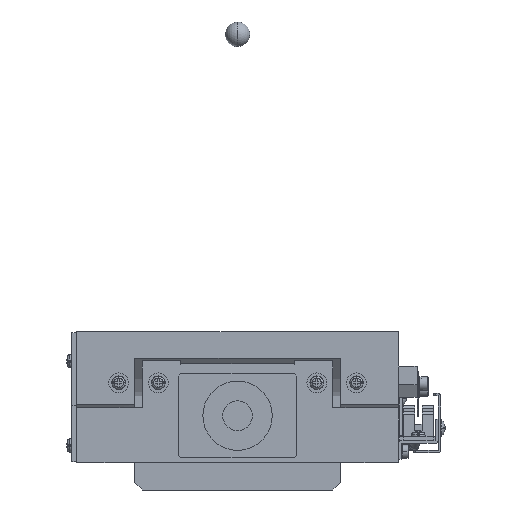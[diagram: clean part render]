
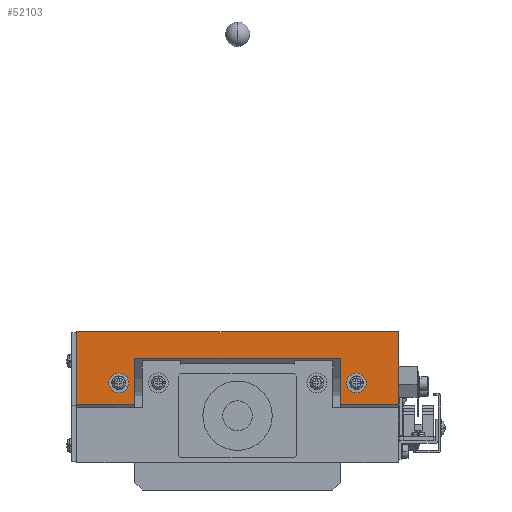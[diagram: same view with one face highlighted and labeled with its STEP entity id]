
A CAD part, left-side view. The second image highlights one B-rep face of the part: STEP entity #52103.
In plain terms, the highlighted planar face has unit normal (-1, 0, 0).
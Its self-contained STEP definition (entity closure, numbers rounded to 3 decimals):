
#1332 = ORIENTED_EDGE ( 'NONE', *, *, #17298, .T. ) ;
#1688 = VERTEX_POINT ( 'NONE', #73977 ) ;
#3361 = ORIENTED_EDGE ( 'NONE', *, *, #24374, .F. ) ;
#3859 = DIRECTION ( 'NONE',  ( 0., 1., 0. ) ) ;
#5965 = CARTESIAN_POINT ( 'NONE',  ( -393.021, -429.568, -234.382 ) ) ;
#7671 = DIRECTION ( 'NONE',  ( -1., 0., 0. ) ) ;
#7735 = DIRECTION ( 'NONE',  ( -1., 0., 0. ) ) ;
#7828 = AXIS2_PLACEMENT_3D ( 'NONE', #42442, #7735, #29941 ) ;
#8437 = ORIENTED_EDGE ( 'NONE', *, *, #21651, .F. ) ;
#9147 = LINE ( 'NONE', #29331, #23346 ) ;
#10221 = CARTESIAN_POINT ( 'NONE',  ( -393.021, -299.568, -204.903 ) ) ;
#11016 = VERTEX_POINT ( 'NONE', #66754 ) ;
#14199 = DIRECTION ( 'NONE',  ( 0., 1., 0. ) ) ;
#15119 = LINE ( 'NONE', #39528, #90064 ) ;
#16290 = EDGE_CURVE ( 'NONE', #83393, #39455, #77763, .T. ) ;
#16624 = CARTESIAN_POINT ( 'NONE',  ( -393.021, -412.568, -225.603 ) ) ;
#17298 = EDGE_CURVE ( 'NONE', #38613, #63239, #80828, .T. ) ;
#18193 = EDGE_LOOP ( 'NONE', ( #61351, #65046, #30654, #1332, #48313, #21122, #40449, #66531 ) ) ;
#18841 = AXIS2_PLACEMENT_3D ( 'NONE', #16624, #65224, #77622 ) ;
#19043 = CARTESIAN_POINT ( 'NONE',  ( -393.021, -406.068, -215.636 ) ) ;
#21122 = ORIENTED_EDGE ( 'NONE', *, *, #81745, .F. ) ;
#21651 = EDGE_CURVE ( 'NONE', #59464, #54343, #87537, .T. ) ;
#22667 = VECTOR ( 'NONE', #34275, 1000. ) ;
#23346 = VECTOR ( 'NONE', #77573, 1000. ) ;
#24300 = VECTOR ( 'NONE', #3859, 1000. ) ;
#24374 = EDGE_CURVE ( 'NONE', #39455, #83393, #80479, .T. ) ;
#29331 = CARTESIAN_POINT ( 'NONE',  ( -393.021, -323.068, -216.751 ) ) ;
#29941 = DIRECTION ( 'NONE',  ( 0., 1., 0. ) ) ;
#30116 = VERTEX_POINT ( 'NONE', #60427 ) ;
#30235 = EDGE_CURVE ( 'NONE', #79624, #45471, #59617, .T. ) ;
#30317 = EDGE_CURVE ( 'NONE', #54343, #59464, #59528, .T. ) ;
#30654 = ORIENTED_EDGE ( 'NONE', *, *, #34274, .T. ) ;
#32538 = LINE ( 'NONE', #5965, #53270 ) ;
#33613 = CARTESIAN_POINT ( 'NONE',  ( -393.021, -312.568, -225.603 ) ) ;
#33653 = DIRECTION ( 'NONE',  ( 0., 0., 1. ) ) ;
#33977 = CARTESIAN_POINT ( 'NONE',  ( -393.021, -320.568, -225.603 ) ) ;
#34274 = EDGE_CURVE ( 'NONE', #11016, #38613, #32538, .T. ) ;
#34275 = DIRECTION ( 'NONE',  ( 0., 1., 0. ) ) ;
#35070 = DIRECTION ( 'NONE',  ( 0., 1., 0. ) ) ;
#35405 = CARTESIAN_POINT ( 'NONE',  ( -393.021, -412.568, -225.603 ) ) ;
#36755 = FACE_OUTER_BOUND ( 'NONE', #18193, .T. ) ;
#37210 = DIRECTION ( 'NONE',  ( -1., 0., 0. ) ) ;
#37816 = VECTOR ( 'NONE', #89843, 1000. ) ;
#38613 = VERTEX_POINT ( 'NONE', #57402 ) ;
#39455 = VERTEX_POINT ( 'NONE', #33977 ) ;
#39528 = CARTESIAN_POINT ( 'NONE',  ( -393.021, -307.568, -234.382 ) ) ;
#40395 = DIRECTION ( 'NONE',  ( 0., 0., 1. ) ) ;
#40449 = ORIENTED_EDGE ( 'NONE', *, *, #53561, .T. ) ;
#40727 = DIRECTION ( 'NONE',  ( 0., 1., 0. ) ) ;
#41892 = CARTESIAN_POINT ( 'NONE',  ( -393.021, -344.568, -215.636 ) ) ;
#42442 = CARTESIAN_POINT ( 'NONE',  ( -393.021, -316.568, -225.603 ) ) ;
#43298 = FACE_BOUND ( 'NONE', #79058, .T. ) ;
#43915 = DIRECTION ( 'NONE',  ( 0., 0., 1. ) ) ;
#45471 = VERTEX_POINT ( 'NONE', #49894 ) ;
#47273 = VECTOR ( 'NONE', #14199, 1000. ) ;
#48313 = ORIENTED_EDGE ( 'NONE', *, *, #52032, .F. ) ;
#48898 = CARTESIAN_POINT ( 'NONE',  ( -393.021, -307.568, -204.903 ) ) ;
#49501 = CARTESIAN_POINT ( 'NONE',  ( -393.021, -299.568, -234.382 ) ) ;
#49894 = CARTESIAN_POINT ( 'NONE',  ( -393.021, -323.068, -215.636 ) ) ;
#50309 = DIRECTION ( 'NONE',  ( -1., 0., 0. ) ) ;
#52032 = EDGE_CURVE ( 'NONE', #53192, #63239, #56321, .T. ) ;
#52103 = ADVANCED_FACE ( 'NONE', ( #36755, #43298, #59605 ), #66021, .T. ) ;
#53192 = VERTEX_POINT ( 'NONE', #59484 ) ;
#53270 = VECTOR ( 'NONE', #33653, 1000. ) ;
#53561 = EDGE_CURVE ( 'NONE', #1688, #45471, #9147, .T. ) ;
#54010 = AXIS2_PLACEMENT_3D ( 'NONE', #83302, #7671, #35070 ) ;
#54343 = VERTEX_POINT ( 'NONE', #73527 ) ;
#54914 = AXIS2_PLACEMENT_3D ( 'NONE', #35405, #50309, #64531 ) ;
#56321 = LINE ( 'NONE', #49501, #37816 ) ;
#57402 = CARTESIAN_POINT ( 'NONE',  ( -393.021, -429.568, -204.903 ) ) ;
#58902 = CARTESIAN_POINT ( 'NONE',  ( -393.021, -429.568, -234.382 ) ) ;
#59464 = VERTEX_POINT ( 'NONE', #79798 ) ;
#59484 = CARTESIAN_POINT ( 'NONE',  ( -393.021, -299.568, -234.382 ) ) ;
#59528 = CIRCLE ( 'NONE', #18841, 4. ) ;
#59605 = FACE_BOUND ( 'NONE', #80235, .T. ) ;
#59617 = LINE ( 'NONE', #41892, #22667 ) ;
#60427 = CARTESIAN_POINT ( 'NONE',  ( -393.021, -406.068, -234.382 ) ) ;
#61351 = ORIENTED_EDGE ( 'NONE', *, *, #78912, .F. ) ;
#62566 = ORIENTED_EDGE ( 'NONE', *, *, #16290, .F. ) ;
#63239 = VERTEX_POINT ( 'NONE', #10221 ) ;
#63571 = LINE ( 'NONE', #89784, #88543 ) ;
#64531 = DIRECTION ( 'NONE',  ( 0., 1., 0. ) ) ;
#65046 = ORIENTED_EDGE ( 'NONE', *, *, #72330, .F. ) ;
#65224 = DIRECTION ( 'NONE',  ( -1., 0., 0. ) ) ;
#66021 = PLANE ( 'NONE',  #77549 ) ;
#66531 = ORIENTED_EDGE ( 'NONE', *, *, #30235, .F. ) ;
#66754 = CARTESIAN_POINT ( 'NONE',  ( -393.021, -429.568, -234.382 ) ) ;
#68888 = LINE ( 'NONE', #58902, #24300 ) ;
#72330 = EDGE_CURVE ( 'NONE', #11016, #30116, #68888, .T. ) ;
#73527 = CARTESIAN_POINT ( 'NONE',  ( -393.021, -408.568, -225.603 ) ) ;
#73977 = CARTESIAN_POINT ( 'NONE',  ( -393.021, -323.068, -234.382 ) ) ;
#77549 = AXIS2_PLACEMENT_3D ( 'NONE', #86639, #37210, #43915 ) ;
#77573 = DIRECTION ( 'NONE',  ( 0., 0., 1. ) ) ;
#77622 = DIRECTION ( 'NONE',  ( 0., 1., 0. ) ) ;
#77763 = CIRCLE ( 'NONE', #54010, 4. ) ;
#78912 = EDGE_CURVE ( 'NONE', #30116, #79624, #63571, .T. ) ;
#79058 = EDGE_LOOP ( 'NONE', ( #62566, #3361 ) ) ;
#79624 = VERTEX_POINT ( 'NONE', #19043 ) ;
#79798 = CARTESIAN_POINT ( 'NONE',  ( -393.021, -416.568, -225.603 ) ) ;
#80235 = EDGE_LOOP ( 'NONE', ( #84166, #8437 ) ) ;
#80479 = CIRCLE ( 'NONE', #7828, 4. ) ;
#80828 = LINE ( 'NONE', #48898, #47273 ) ;
#81745 = EDGE_CURVE ( 'NONE', #1688, #53192, #15119, .T. ) ;
#83302 = CARTESIAN_POINT ( 'NONE',  ( -393.021, -316.568, -225.603 ) ) ;
#83393 = VERTEX_POINT ( 'NONE', #33613 ) ;
#84166 = ORIENTED_EDGE ( 'NONE', *, *, #30317, .F. ) ;
#86639 = CARTESIAN_POINT ( 'NONE',  ( -393.021, -307.568, -234.382 ) ) ;
#87537 = CIRCLE ( 'NONE', #54914, 4. ) ;
#88543 = VECTOR ( 'NONE', #40395, 1000. ) ;
#89784 = CARTESIAN_POINT ( 'NONE',  ( -393.021, -406.068, -216.751 ) ) ;
#89843 = DIRECTION ( 'NONE',  ( 0., 0., 1. ) ) ;
#90064 = VECTOR ( 'NONE', #40727, 1000. ) ;
